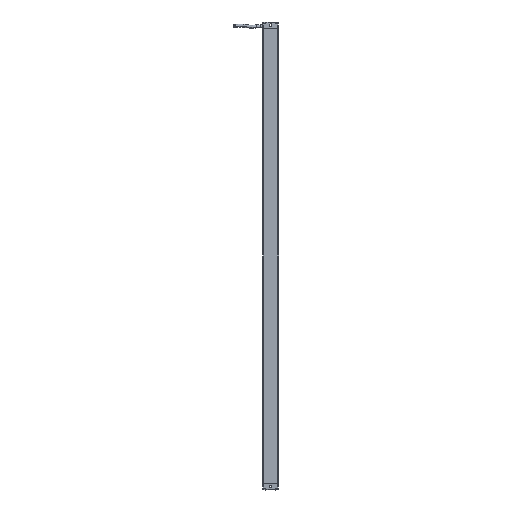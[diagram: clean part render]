
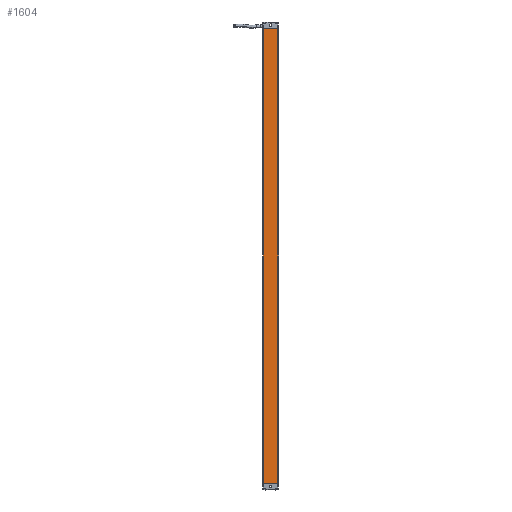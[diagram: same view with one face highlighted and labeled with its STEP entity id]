
A CAD part, front view. The second image highlights one B-rep face of the part: STEP entity #1604.
In plain terms, the highlighted planar face has unit normal (-0.001, -1, 0).
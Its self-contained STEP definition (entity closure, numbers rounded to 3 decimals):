
#1604=ADVANCED_FACE('',(#2720),#2349,.T.);
#2349=PLANE('',#14604);
#2720=FACE_OUTER_BOUND('',#3441,.T.);
#3441=EDGE_LOOP('',(#4477,#4478,#4479,#4480));
#4477=ORIENTED_EDGE('',*,*,#10104,.T.);
#4478=ORIENTED_EDGE('',*,*,#10057,.F.);
#4479=ORIENTED_EDGE('',*,*,#10102,.T.);
#4480=ORIENTED_EDGE('',*,*,#10105,.T.);
#8601=VERTEX_POINT('',#19890);
#8602=VERTEX_POINT('',#19892);
#8639=VERTEX_POINT('',#19981);
#8640=VERTEX_POINT('',#19985);
#10057=EDGE_CURVE('',#8601,#8602,#12174,.T.);
#10102=EDGE_CURVE('',#8601,#8639,#12205,.T.);
#10104=EDGE_CURVE('',#8640,#8602,#12206,.T.);
#10105=EDGE_CURVE('',#8639,#8640,#12207,.T.);
#12174=LINE('',#19891,#13389);
#12205=LINE('',#19980,#13420);
#12206=LINE('',#19984,#13421);
#12207=LINE('',#19986,#13422);
#13389=VECTOR('',#16033,1.);
#13420=VECTOR('',#16106,1.);
#13421=VECTOR('',#16111,1.);
#13422=VECTOR('',#16112,1.);
#14604=AXIS2_PLACEMENT_3D('',#19987,#16113,#16114);
#16033=DIRECTION('',(1.,-0.001,0.));
#16106=DIRECTION('',(0.,0.,-1.));
#16111=DIRECTION('',(0.,0.,1.));
#16112=DIRECTION('',(1.,-0.001,0.));
#16113=DIRECTION('',(-0.001,-1.,0.));
#16114=DIRECTION('',(1.,-0.001,0.));
#19890=CARTESIAN_POINT('',(53.048,-142.376,1000.376));
#19891=CARTESIAN_POINT('',(79.028,-142.395,1000.376));
#19892=CARTESIAN_POINT('',(79.028,-142.395,1000.376));
#19980=CARTESIAN_POINT('',(53.048,-142.376,543.376));
#19981=CARTESIAN_POINT('',(53.048,-142.376,198.376));
#19984=CARTESIAN_POINT('',(79.028,-142.395,198.376));
#19985=CARTESIAN_POINT('',(79.028,-142.395,198.376));
#19986=CARTESIAN_POINT('',(53.048,-142.376,198.376));
#19987=CARTESIAN_POINT('',(79.028,-142.395,543.376));
